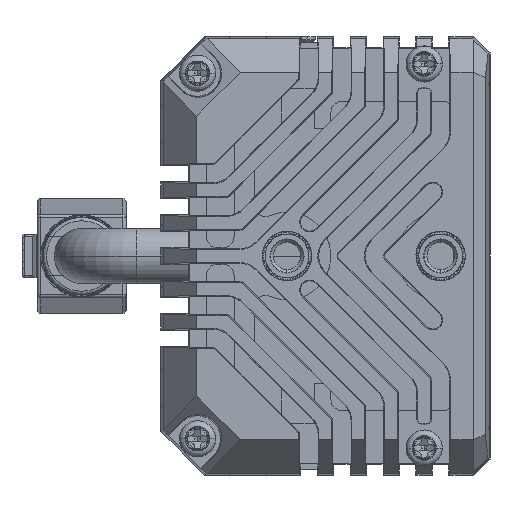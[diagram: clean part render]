
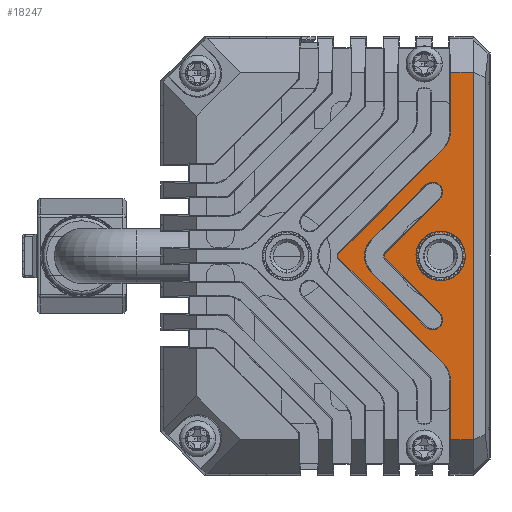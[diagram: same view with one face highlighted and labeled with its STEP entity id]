
A CAD part, left-side view. The second image highlights one B-rep face of the part: STEP entity #18247.
In plain terms, the highlighted planar face has unit normal (-1, 0, 0) as drawn and (0, 0, 1) by its records, which use the part's own axes.
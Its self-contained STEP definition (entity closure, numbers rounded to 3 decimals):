
#11145=CARTESIAN_POINT('',(0.,-1.473,0.));
#11146=DIRECTION('',(0.,0.,1.));
#11147=DIRECTION('',(0.707,0.707,0.));
#11148=AXIS2_PLACEMENT_3D('',#11145,#11146,#11147);
#11154=DIRECTION('',(0.707,-0.707,0.));
#11155=VECTOR('',#11154,13.498);
#11156=CARTESIAN_POINT('',(0.242,-1.231,0.));
#11157=LINE('',#11156,#11155);
#11161=DIRECTION('',(-1.,0.,0.));
#11162=VECTOR('',#11161,5.438);
#11163=CARTESIAN_POINT('',(16.75,-11.407,0.));
#11164=LINE('',#11163,#11162);
#11168=DIRECTION('',(0.,1.,0.));
#11169=VECTOR('',#11168,2.093);
#11170=CARTESIAN_POINT('',(16.75,-13.5,0.));
#11171=LINE('',#11170,#11169);
#11175=DIRECTION('',(1.,0.,0.));
#11176=VECTOR('',#11175,33.5);
#11177=CARTESIAN_POINT('',(-16.75,-13.5,0.));
#11178=LINE('',#11177,#11176);
#11182=DIRECTION('',(0.,1.,0.));
#11183=VECTOR('',#11182,2.093);
#11184=CARTESIAN_POINT('',(-16.75,-13.5,0.));
#11185=LINE('',#11184,#11183);
#11189=DIRECTION('',(1.,0.,0.));
#11190=VECTOR('',#11189,5.438);
#11191=CARTESIAN_POINT('',(-16.75,-11.407,0.));
#11192=LINE('',#11191,#11190);
#11196=DIRECTION('',(0.707,0.707,0.));
#11197=VECTOR('',#11196,13.498);
#11198=CARTESIAN_POINT('',(-9.787,-10.775,0.));
#11199=LINE('',#11198,#11197);
#11203=CARTESIAN_POINT('',(0.,-5.716,0.));
#11204=DIRECTION('',(0.,0.,1.));
#11205=DIRECTION('',(0.707,0.707,0.));
#11206=AXIS2_PLACEMENT_3D('',#11203,#11204,#11205);
#11211=DIRECTION('',(0.707,-0.707,0.));
#11212=VECTOR('',#11211,6.997);
#11213=CARTESIAN_POINT('',(0.242,-5.473,0.));
#11214=LINE('',#11213,#11212);
#11218=CARTESIAN_POINT('',(5.831,-9.78,0.));
#11219=DIRECTION('',(0.,0.,1.));
#11220=DIRECTION('',(-0.707,-0.707,0.));
#11221=AXIS2_PLACEMENT_3D('',#11218,#11219,#11220);
#11226=DIRECTION('',(-0.707,0.707,0.));
#11227=VECTOR('',#11226,6.997);
#11228=CARTESIAN_POINT('',(6.473,-9.138,0.));
#11229=LINE('',#11228,#11227);
#11233=DIRECTION('',(-0.707,-0.707,0.));
#11234=VECTOR('',#11233,6.997);
#11235=CARTESIAN_POINT('',(-1.525,-4.191,0.));
#11236=LINE('',#11235,#11234);
#11240=CARTESIAN_POINT('',(-5.831,-9.78,0.));
#11241=DIRECTION('',(0.,0.,1.));
#11242=DIRECTION('',(-0.707,0.707,0.));
#11243=AXIS2_PLACEMENT_3D('',#11240,#11241,#11242);
#11248=DIRECTION('',(0.707,0.707,0.));
#11249=VECTOR('',#11248,6.997);
#11250=CARTESIAN_POINT('',(-5.19,-10.421,0.));
#11251=LINE('',#11250,#11249);
#11918=CARTESIAN_POINT('',(0.,-10.5,0.));
#11919=DIRECTION('',(0.,0.,1.));
#11920=DIRECTION('',(1.,0.,0.));
#11921=AXIS2_PLACEMENT_3D('',#11918,#11919,#11920);
#11926=CARTESIAN_POINT('',(0.,-10.5,0.));
#11927=DIRECTION('',(0.,0.,1.));
#11928=DIRECTION('',(-1.,0.,0.));
#11929=AXIS2_PLACEMENT_3D('',#11926,#11927,#11928);
#11956=CARTESIAN_POINT('',(-11.312,-9.25,0.));
#11957=DIRECTION('',(0.,0.,-1.));
#11958=DIRECTION('',(0.707,-0.707,0.));
#11959=AXIS2_PLACEMENT_3D('',#11956,#11957,#11958);
#15287=CARTESIAN_POINT('',(11.312,-9.25,0.));
#15288=DIRECTION('',(0.,0.,-1.));
#15289=DIRECTION('',(0.,-1.,0.));
#15290=AXIS2_PLACEMENT_3D('',#15287,#15288,#15289);
#16956=CARTESIAN_POINT('',(0.,-5.716,0.));
#16957=DIRECTION('',(0.,0.,-1.));
#16958=DIRECTION('',(-0.707,0.707,0.));
#16959=AXIS2_PLACEMENT_3D('',#16956,#16957,#16958);
#17112=CARTESIAN_POINT('',(-16.75,-13.5,0.));
#17113=CARTESIAN_POINT('',(16.75,-13.5,0.));
#17114=VERTEX_POINT('',#17112);
#17115=VERTEX_POINT('',#17113);
#17128=CARTESIAN_POINT('',(2.,-10.5,0.));
#17129=CARTESIAN_POINT('',(-2.,-10.5,0.));
#17130=VERTEX_POINT('',#17128);
#17131=VERTEX_POINT('',#17129);
#17212=CARTESIAN_POINT('',(16.75,-11.407,0.));
#17213=VERTEX_POINT('',#17212);
#17222=CARTESIAN_POINT('',(-6.473,-9.138,0.));
#17224=VERTEX_POINT('',#17222);
#17228=CARTESIAN_POINT('',(-5.19,-10.421,0.));
#17229=VERTEX_POINT('',#17228);
#17234=CARTESIAN_POINT('',(6.473,-9.138,0.));
#17235=VERTEX_POINT('',#17234);
#17236=CARTESIAN_POINT('',(5.19,-10.421,0.));
#17237=VERTEX_POINT('',#17236);
#17242=CARTESIAN_POINT('',(11.312,-11.407,0.));
#17243=VERTEX_POINT('',#17242);
#17244=CARTESIAN_POINT('',(9.787,-10.775,0.));
#17245=VERTEX_POINT('',#17244);
#17306=CARTESIAN_POINT('',(-9.787,-10.775,0.));
#17307=VERTEX_POINT('',#17306);
#17308=CARTESIAN_POINT('',(-11.312,-11.407,0.));
#17309=VERTEX_POINT('',#17308);
#17314=CARTESIAN_POINT('',(-1.525,-4.191,0.));
#17315=VERTEX_POINT('',#17314);
#17316=CARTESIAN_POINT('',(1.525,-4.191,0.));
#17317=VERTEX_POINT('',#17316);
#17332=CARTESIAN_POINT('',(-16.75,-11.407,0.));
#17333=VERTEX_POINT('',#17332);
#17334=CARTESIAN_POINT('',(0.242,-5.473,0.));
#17335=CARTESIAN_POINT('',(-0.242,-5.473,0.));
#17336=VERTEX_POINT('',#17334);
#17337=VERTEX_POINT('',#17335);
#17342=CARTESIAN_POINT('',(0.242,-1.231,0.));
#17343=CARTESIAN_POINT('',(-0.242,-1.231,0.));
#17344=VERTEX_POINT('',#17342);
#17345=VERTEX_POINT('',#17343);
#18196=CARTESIAN_POINT('',(0.,0.,0.));
#18197=DIRECTION('',(0.,0.,1.));
#18198=DIRECTION('',(1.,0.,0.));
#18199=AXIS2_PLACEMENT_3D('',#18196,#18197,#18198);
#18200=PLANE('',#18199);
#18202=ORIENTED_EDGE('',*,*,#18201,.F.);
#18204=ORIENTED_EDGE('',*,*,#18203,.T.);
#18206=ORIENTED_EDGE('',*,*,#18205,.F.);
#18208=ORIENTED_EDGE('',*,*,#18207,.F.);
#18210=ORIENTED_EDGE('',*,*,#18209,.F.);
#18212=ORIENTED_EDGE('',*,*,#18211,.F.);
#18214=ORIENTED_EDGE('',*,*,#18213,.T.);
#18216=ORIENTED_EDGE('',*,*,#18215,.T.);
#18218=ORIENTED_EDGE('',*,*,#18217,.F.);
#18220=ORIENTED_EDGE('',*,*,#18219,.T.);
#18221=EDGE_LOOP('',(#18202,#18204,#18206,#18208,#18210,#18212,#18214,#18216,
#18218,#18220));
#18222=FACE_OUTER_BOUND('',#18221,.F.);
#18224=ORIENTED_EDGE('',*,*,#18223,.F.);
#18226=ORIENTED_EDGE('',*,*,#18225,.T.);
#18228=ORIENTED_EDGE('',*,*,#18227,.T.);
#18230=ORIENTED_EDGE('',*,*,#18229,.T.);
#18232=ORIENTED_EDGE('',*,*,#18231,.F.);
#18234=ORIENTED_EDGE('',*,*,#18233,.T.);
#18236=ORIENTED_EDGE('',*,*,#18235,.T.);
#18238=ORIENTED_EDGE('',*,*,#18237,.T.);
#18239=EDGE_LOOP('',(#18224,#18226,#18228,#18230,#18232,#18234,#18236,#18238));
#18240=FACE_BOUND('',#18239,.F.);
#18242=ORIENTED_EDGE('',*,*,#18241,.T.);
#18244=ORIENTED_EDGE('',*,*,#18243,.T.);
#18245=EDGE_LOOP('',(#18242,#18244));
#18246=FACE_BOUND('',#18245,.F.);
#11149=CIRCLE('',#11148,0.343);
#11207=CIRCLE('',#11206,0.343);
#11222=CIRCLE('',#11221,0.907);
#11244=CIRCLE('',#11243,0.907);
#11922=CIRCLE('',#11921,2.);
#11930=CIRCLE('',#11929,2.);
#11960=CIRCLE('',#11959,2.157);
#15291=CIRCLE('',#15290,2.157);
#16960=CIRCLE('',#16959,2.157);
#18201=EDGE_CURVE('',#17344,#17345,#11149,.T.);
#18203=EDGE_CURVE('',#17344,#17245,#11157,.T.);
#18205=EDGE_CURVE('',#17243,#17245,#15291,.T.);
#18207=EDGE_CURVE('',#17213,#17243,#11164,.T.);
#18209=EDGE_CURVE('',#17115,#17213,#11171,.T.);
#18211=EDGE_CURVE('',#17114,#17115,#11178,.T.);
#18213=EDGE_CURVE('',#17114,#17333,#11185,.T.);
#18215=EDGE_CURVE('',#17333,#17309,#11192,.T.);
#18217=EDGE_CURVE('',#17307,#17309,#11960,.T.);
#18219=EDGE_CURVE('',#17307,#17345,#11199,.T.);
#18223=EDGE_CURVE('',#17336,#17337,#11207,.T.);
#18225=EDGE_CURVE('',#17336,#17237,#11214,.T.);
#18227=EDGE_CURVE('',#17237,#17235,#11222,.T.);
#18229=EDGE_CURVE('',#17235,#17317,#11229,.T.);
#18231=EDGE_CURVE('',#17315,#17317,#16960,.T.);
#18233=EDGE_CURVE('',#17315,#17224,#11236,.T.);
#18235=EDGE_CURVE('',#17224,#17229,#11244,.T.);
#18237=EDGE_CURVE('',#17229,#17337,#11251,.T.);
#18241=EDGE_CURVE('',#17130,#17131,#11922,.T.);
#18243=EDGE_CURVE('',#17131,#17130,#11930,.T.);
#18247=ADVANCED_FACE('',(#18222,#18240,#18246),#18200,.T.);
